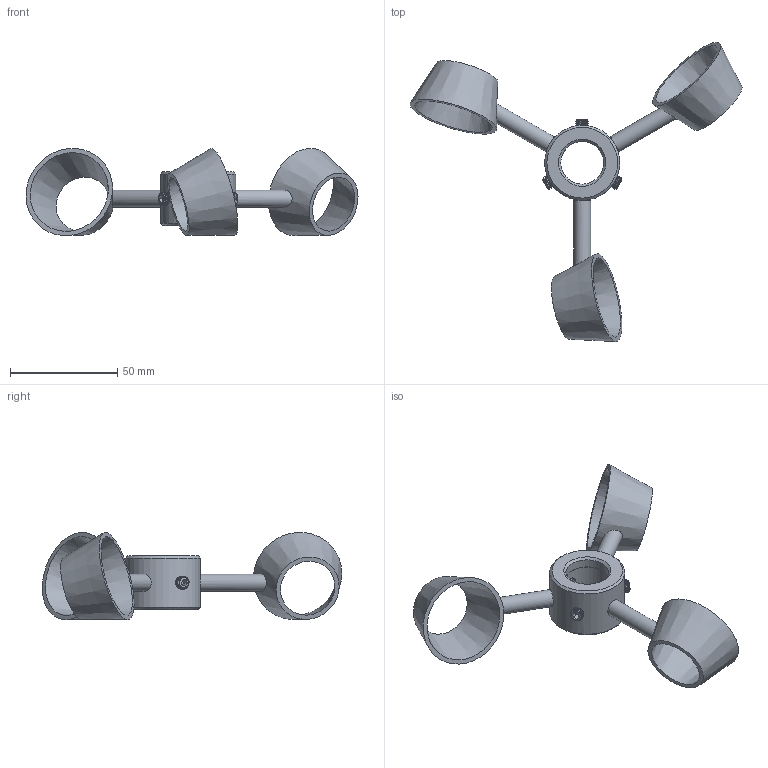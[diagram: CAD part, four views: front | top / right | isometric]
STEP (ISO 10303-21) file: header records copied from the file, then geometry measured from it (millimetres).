
FILE_DESCRIPTION (( 'STEP AP214' ), '1' );
FILE_NAME ('eco-Cup 170x20.STEP', '2025-05-23T12:13:30', ( '' ), ( '' ), 'SwSTEP 2.0', 'SolidWorks 2022', '' );
FILE_SCHEMA (( 'AUTOMOTIVE_DESIGN' ));
Length unit declared in the file: millimetre
Products named in the file (5): DIN 913 - M6 x 10-S_DIN 913 - M6 x 10-S; Becher_eco-Cup 170; Rührarm_D08_DIN11852; eco-Cup 170x20; Scheibenabe_35x20
Assembly tree (10 placements, depth 2):
  eco-Cup 170x20
    Scheibenabe_35x20
    Rührarm_D08_DIN11852  x3
    Becher_eco-Cup 170  x3
    DIN 913 - M6 x 10-S_DIN 913 - M6 x 10-S  x3
Bounding box: 154.81 x 139.58 x 40.65 mm (x, y, z)
Volume: 34729 mm3; surface area: 25176 mm2
Topology: 10 solids, 10 shells, 156 faces, 315 edges, 182 vertices
Faces by surface type: cone 78, plane 41, cylinder 37
Full cylindrical faces by diameter (mm): 5 x3, 6 x27, 8 x3, 20 x2, 21 x1, 35 x1
Entity records: 1926 total; most frequent: CARTESIAN_POINT 577, DIRECTION 266, ORIENTED_EDGE 148, AXIS2_PLACEMENT_3D 124, EDGE_LOOP 120, FACE_OUTER_BOUND 79, EDGE_CURVE 74, VERTEX_POINT 68
